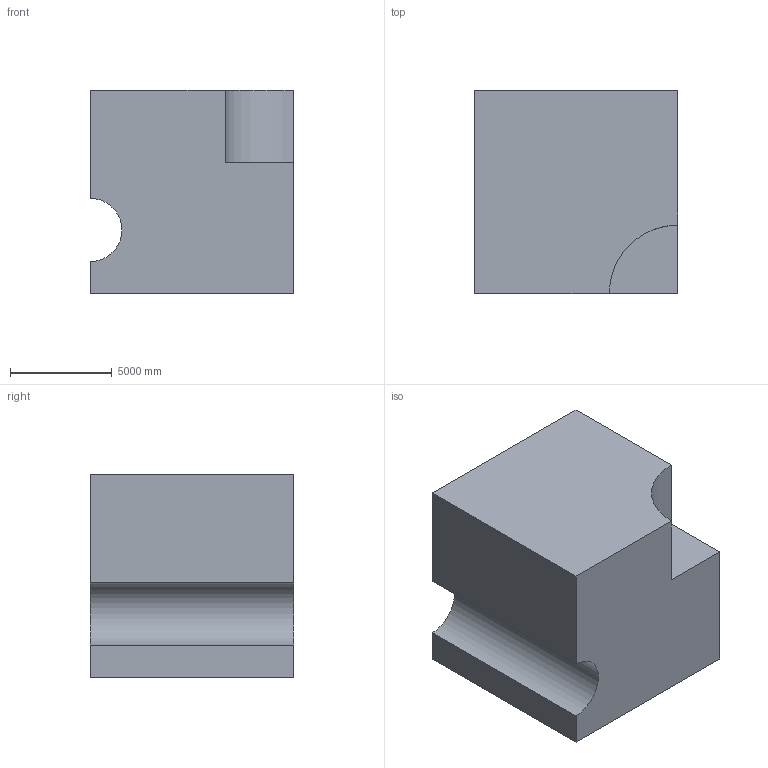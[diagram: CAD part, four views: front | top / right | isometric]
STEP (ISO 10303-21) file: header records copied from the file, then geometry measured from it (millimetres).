
FILE_DESCRIPTION (( 'STEP AP203' ), '1' );
FILE_NAME ('11.STEP', '2022-09-02T13:40:06', ( 'user' ), ( '' ), 'SwSTEP 2.0', 'SolidWorks 2021', '' );
FILE_SCHEMA (( 'CONFIG_CONTROL_DESIGN' ));
Length unit declared in the file: centimetre
Products named in the file (1): 11
Bounding box: 10000 x 10000 x 10000 mm (x, y, z)
Volume: 930520602022.9 mm3; surface area: 605030967.9 mm2
Topology: 1 solids, 1 shells, 10 faces, 24 edges, 16 vertices
Faces by surface type: plane 8, cylinder 2
Entity records: 369 total; most frequent: CARTESIAN_POINT 51, DIRECTION 50, ORIENTED_EDGE 48, EDGE_CURVE 24, LINE 20, VECTOR 20, VERTEX_POINT 16, AXIS2_PLACEMENT_3D 15
